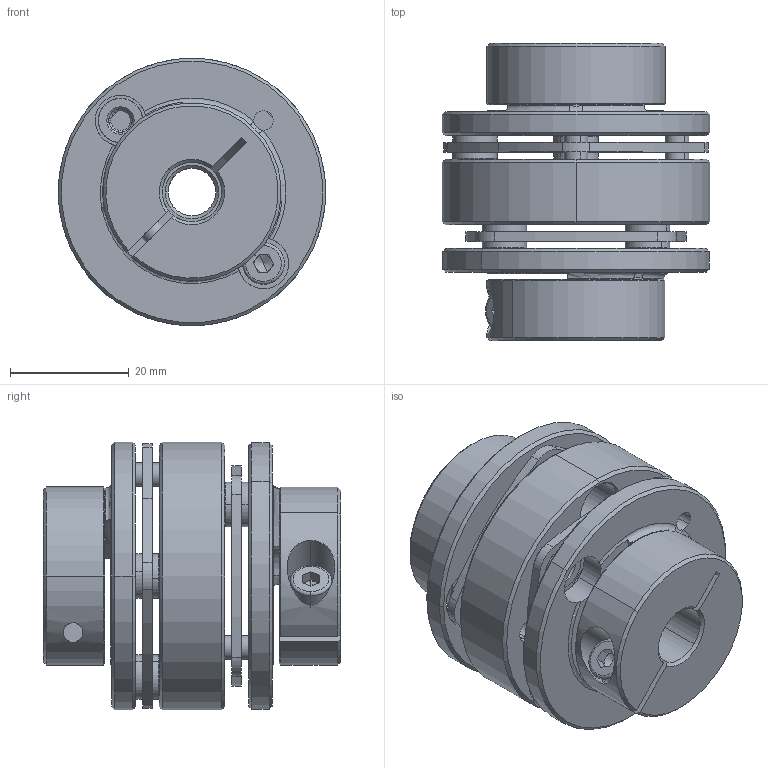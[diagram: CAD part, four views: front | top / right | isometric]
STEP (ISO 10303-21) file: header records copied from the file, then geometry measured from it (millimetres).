
FILE_DESCRIPTION (( 'STEP AP203' ), '1' );
FILE_NAME ('LE2-B-D45L50-8-10.STEP', '2021-11-01T06:26:26', ( '' ), ( '' ), 'SwSTEP 2.0', 'SolidWorks 2018', '' );
FILE_SCHEMA (( 'CONFIG_CONTROL_DESIGN' ));
Length unit declared in the file: millimetre
Products named in the file (1): LE2-B-D45L50-8-10
Bounding box: 45 x 50 x 45 mm (x, y, z)
Volume: 37818.1 mm3; surface area: 24019.7 mm2
Topology: 1 solids, 5 shells, 494 faces, 1194 edges, 732 vertices
Faces by surface type: cylinder 178, cone 154, plane 142, torus 18, bspline 2
Entity records: 14963 total; most frequent: CARTESIAN_POINT 2891, DIRECTION 2748, ORIENTED_EDGE 2364, EDGE_CURVE 1182, AXIS2_PLACEMENT_3D 1123, VERTEX_POINT 732, CIRCLE 630, EDGE_LOOP 586
